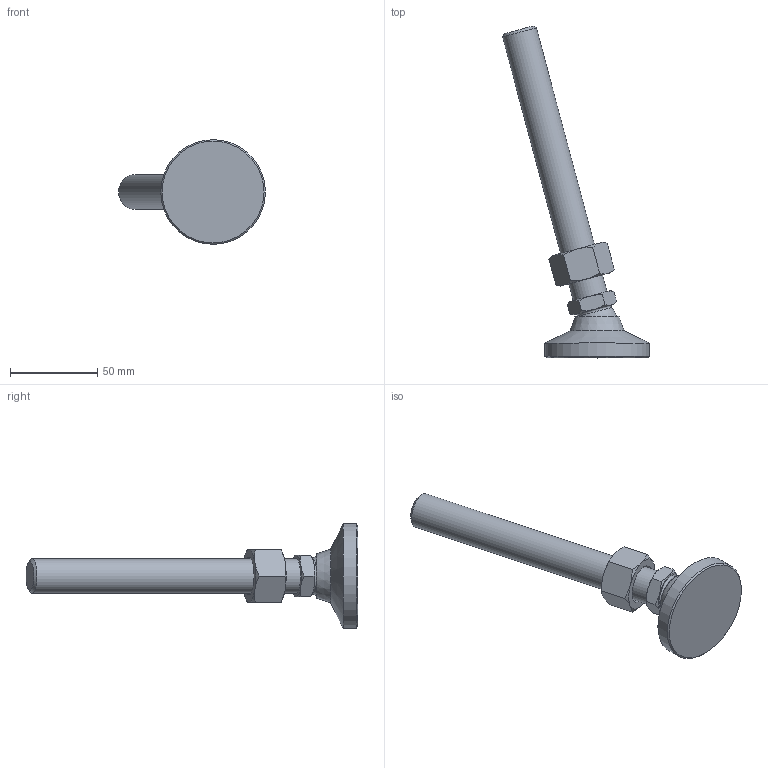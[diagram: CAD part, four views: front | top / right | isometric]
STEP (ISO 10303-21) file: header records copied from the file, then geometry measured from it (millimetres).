
FILE_DESCRIPTION( ( 'STEP AP214' ), ' ' );
FILE_NAME( 'O:/ganter_2015/teil_2/2_5/gn343_2/gn343_2_os/Levelling foot with threaded stud GN 343.2-60-M20-158-OS-(15).stp', '2015-10-26T09:08:57', ( '' ), ( '' ), ' ', 'PARTsolutions', ' ' );
FILE_SCHEMA( ( 'AUTOMOTIVE_DESIGN { 1 0 10303 214 1 1 1 1 }' ) );
Length unit declared in the file: millimetre
Products named in the file (4): Levelling foot with threaded stud GN 343.2-60-M20-158-OS-(15); _Levelling foot with threaded stud GN 343.2-60-M20-158-OS-(15)_foot; _Levelling foot with threaded stud GN 343.2-60-M20-158-OS-(15)_screw; _Stainless Steel-Levelling feet GN 343.2-60-M20-158-OS-(15)_nut
Assembly tree (3 placements, depth 2):
  Levelling foot with threaded stud GN 343.2-60-M20-158-OS-(15)
    _Levelling foot with threaded stud GN 343.2-60-M20-158-OS-(15)_foot
    _Levelling foot with threaded stud GN 343.2-60-M20-158-OS-(15)_screw
    _Stainless Steel-Levelling feet GN 343.2-60-M20-158-OS-(15)_nut
Bounding box: 84.16 x 190.29 x 60 mm (x, y, z)
Volume: 105470.2 mm3; surface area: 24951.2 mm2
Topology: 3 solids, 3 shells, 56 faces, 117 edges, 68 vertices
Faces by surface type: cone 30, plane 19, cylinder 3, torus 2, sphere 2
Full cylindrical faces by diameter (mm): 17.294 x1, 20 x1, 60 x1
Entity records: 2090 total; most frequent: CARTESIAN_POINT 522, DIRECTION 212, ORIENTED_EDGE 200, AXIS2_PLACEMENT_3D 100, EDGE_CURVE 100, EDGE_LOOP 72, VERTEX_POINT 66, FACE_OUTER_BOUND 61
